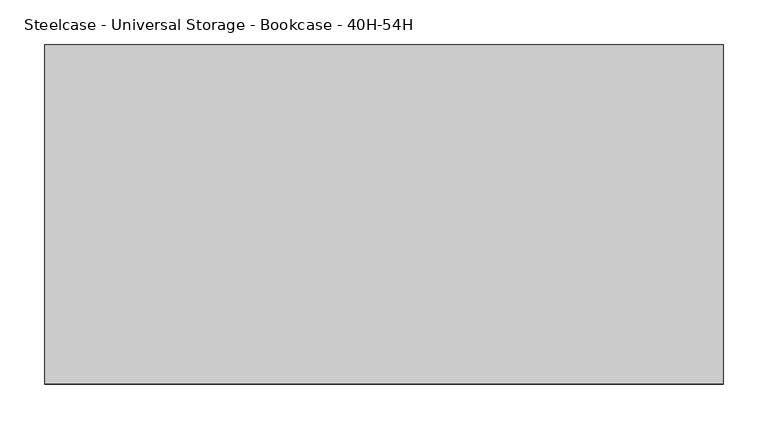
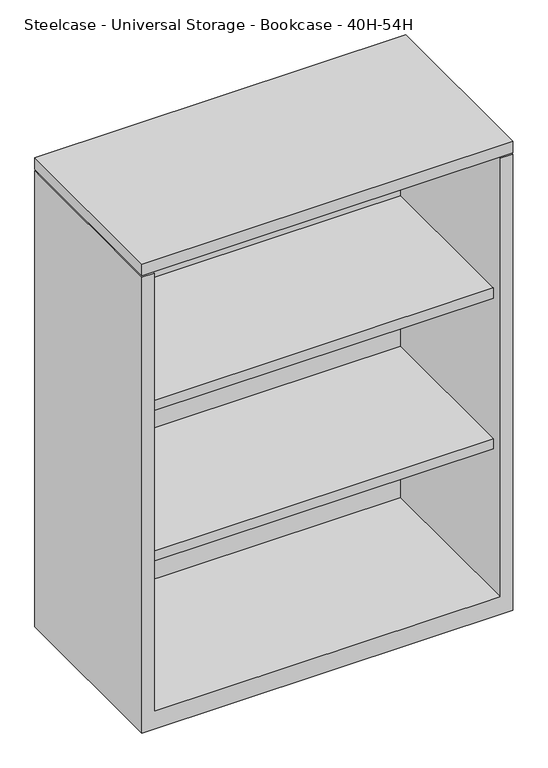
"""IFC4 building model written with IfcOpenShell, lengths in millimetres: furniture geometry, Steelcase - Universal Storage - Bookcase - 40H-54H : 40H x 30W."""

from ifc_helpers import new_model, si_unit, frame, origin, place, context, project, spatial, polyline, outline, extrude, faceted_brep, source, transform, mapped, element, save


def steelcase_universal_storage_bookcase_40h_54h_0739273a(model_context):
    return source(origin(), model_context, "Body", "SolidModel", [
        extrude(outline(polyline([(762.0, -98.552), (762.0, -479.552), (0.0, -479.552), (0.0, -98.552), (762.0, -98.552)])), frame((0.0, 0.0, 993.6479031), z_axis=(0.0, 0.0, 1.0), x_axis=(1.0, 0.0, 0.0)), (0.0, 0.0, 1.0), 25.4000484),
        extrude(outline(polyline([(736.6000242, -123.9520008), (736.6000242, -454.0250121), (25.4000008, -454.0250121), (25.4000008, -123.9520008), (736.6000242, -123.9520008)])), frame((0.0, 0.0, 344.424), z_axis=(0.0, 0.0, 1.0), x_axis=(1.0, 0.0, 0.0)), (0.0, 0.0, 1.0), 22.2249516),
        extrude(outline(polyline([(736.6000242, -123.9520008), (736.6000242, -454.0250121), (25.4000008, -454.0250121), (25.4000008, -123.9520008), (736.6000242, -123.9520008)])), frame((0.0, 0.0, 671.4489516), z_axis=(0.0, 0.0, 1.0), x_axis=(1.0, 0.0, 0.0)), (0.0, 0.0, 1.0), 22.2249516),
        faceted_brep([(25.4000008, -479.552, 38.1), (736.6000242, -479.552, 38.1), (736.6000242, -123.9520008, 38.1), (25.4000008, -123.9520008, 38.1), (762.0, -98.552, 0.0), (762.0, -479.552, 0.0), (0.0, -479.552, 0.0), (0.0, -98.552, 0.0), (0.0, -98.552, 990.6), (762.0, -98.552, 990.6), (0.0, -479.552, 990.6), (762.0, -479.552, 990.6), (736.6000242, -479.552, 990.6), (25.4000008, -479.552, 990.6), (736.6000242, -123.9520008, 990.6), (25.4000008, -123.9520008, 990.6)], [[[0, 1, 2, 3]], [[4, 5, 6, 7]], [[4, 7, 8, 9]], [[8, 7, 6, 10]], [[10, 6, 5, 11, 12, 1, 0, 13]], [[11, 5, 4, 9]], [[14, 12, 11, 9, 8, 10, 13, 15]], [[12, 14, 2, 1]], [[15, 13, 0, 3]], [[14, 15, 3, 2]]]),
    ])


if __name__ == "__main__":
    model = new_model("IFC4")
    model_context = context("Model", 3, world=origin())
    ifc_project = project(units=[si_unit("LENGTHUNIT", "METRE", prefix="MILLI")], contexts=[model_context])
    site = spatial("IfcSite", under=ifc_project)
    building = spatial("IfcBuilding", under=site)
    placement = place(None, origin())
    steelcase_universal_storage_bookcase_40h_54h_shape = steelcase_universal_storage_bookcase_40h_54h_0739273a(model_context)
    element("IfcFurniture", 1, ObjectType="Steelcase - Universal Storage - Bookcase - 40H-54H : 40H x 30W", at=placement, inside=building, context=model_context, shape_type="MappedRepresentation", body=[
        mapped(steelcase_universal_storage_bookcase_40h_54h_shape, transform((0.0, 0.0, 0.0), x_axis=(1.0, 0.0, 0.0), y_axis=(0.0, 1.0, 0.0), z_axis=(0.0, 0.0, 1.0))),
    ])
    save(model, "model.ifc")
